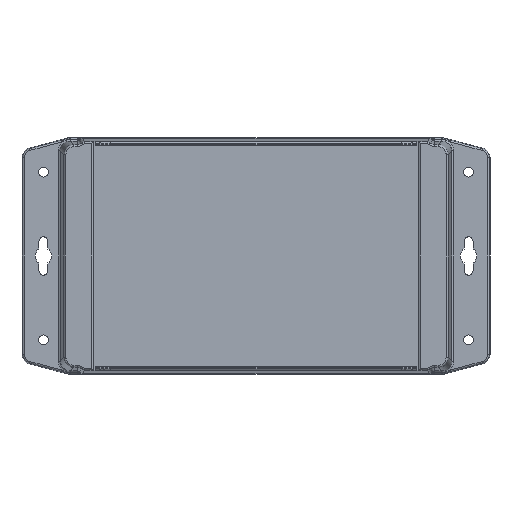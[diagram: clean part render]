
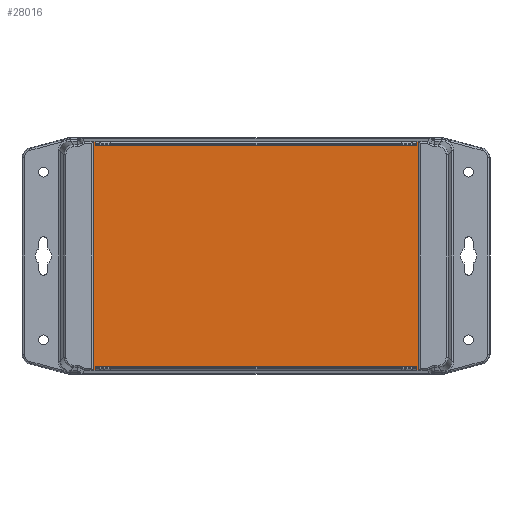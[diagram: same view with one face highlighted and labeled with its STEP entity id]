
A CAD part, front view. The second image highlights one B-rep face of the part: STEP entity #28016.
In plain terms, the highlighted planar face has unit normal (0, -1, 0).
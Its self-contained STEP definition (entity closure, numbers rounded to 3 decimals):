
#2426=FACE_OUTER_BOUND('',#4178,.T.);
#4178=EDGE_LOOP('',(#19983,#19984,#19985,#19986,#19987,#19988,#19989,#19990,
#19991,#19992,#19993,#19994));
#7143=LINE('',#41943,#9467);
#7153=LINE('',#42022,#9477);
#7177=LINE('',#42245,#9501);
#7180=LINE('',#42250,#9504);
#7192=LINE('',#42390,#9516);
#7195=LINE('',#42396,#9519);
#7199=LINE('',#42408,#9523);
#7211=LINE('',#42589,#9535);
#7214=LINE('',#42596,#9538);
#7218=LINE('',#42603,#9542);
#7220=LINE('',#42607,#9544);
#7274=LINE('',#43561,#9598);
#9467=VECTOR('',#32847,10.);
#9477=VECTOR('',#32885,10.);
#9501=VECTOR('',#32983,10.);
#9504=VECTOR('',#32986,10.);
#9516=VECTOR('',#33022,10.);
#9519=VECTOR('',#33025,10.);
#9523=VECTOR('',#33031,10.);
#9535=VECTOR('',#33105,10.);
#9538=VECTOR('',#33114,10.);
#9542=VECTOR('',#33122,10.);
#9544=VECTOR('',#33126,10.);
#9598=VECTOR('',#33458,10.);
#11827=VERTEX_POINT('',#41940);
#11828=VERTEX_POINT('',#41942);
#11842=VERTEX_POINT('',#42019);
#11843=VERTEX_POINT('',#42021);
#11880=VERTEX_POINT('',#42242);
#11881=VERTEX_POINT('',#42244);
#11883=VERTEX_POINT('',#42249);
#11893=VERTEX_POINT('',#42388);
#11895=VERTEX_POINT('',#42393);
#11896=VERTEX_POINT('',#42395);
#11922=VERTEX_POINT('',#42594);
#11924=VERTEX_POINT('',#42605);
#14658=EDGE_CURVE('',#11828,#11827,#7143,.T.);
#14678=EDGE_CURVE('',#11843,#11842,#7153,.T.);
#14732=EDGE_CURVE('',#11880,#11881,#7177,.F.);
#14735=EDGE_CURVE('',#11843,#11883,#7180,.F.);
#14756=EDGE_CURVE('',#11893,#11827,#7192,.F.);
#14759=EDGE_CURVE('',#11895,#11896,#7195,.F.);
#14764=EDGE_CURVE('',#11893,#11883,#7199,.T.);
#14802=EDGE_CURVE('',#11896,#11880,#7211,.T.);
#14805=EDGE_CURVE('',#11842,#11922,#7214,.T.);
#14809=EDGE_CURVE('',#11922,#11881,#7218,.T.);
#14811=EDGE_CURVE('',#11895,#11924,#7220,.T.);
#14985=EDGE_CURVE('',#11924,#11828,#7274,.T.);
#19983=ORIENTED_EDGE('',*,*,#14658,.T.);
#19984=ORIENTED_EDGE('',*,*,#14756,.F.);
#19985=ORIENTED_EDGE('',*,*,#14764,.T.);
#19986=ORIENTED_EDGE('',*,*,#14735,.F.);
#19987=ORIENTED_EDGE('',*,*,#14678,.T.);
#19988=ORIENTED_EDGE('',*,*,#14805,.T.);
#19989=ORIENTED_EDGE('',*,*,#14809,.T.);
#19990=ORIENTED_EDGE('',*,*,#14732,.F.);
#19991=ORIENTED_EDGE('',*,*,#14802,.F.);
#19992=ORIENTED_EDGE('',*,*,#14759,.F.);
#19993=ORIENTED_EDGE('',*,*,#14811,.T.);
#19994=ORIENTED_EDGE('',*,*,#14985,.T.);
#27106=PLANE('',#30001);
#28016=ADVANCED_FACE('',(#2426),#27106,.F.);
#30001=AXIS2_PLACEMENT_3D('',#43579,#33481,#33482);
#32847=DIRECTION('',(0.,0.,-1.));
#32885=DIRECTION('',(0.,0.,-1.));
#32983=DIRECTION('',(-1.,0.,0.));
#32986=DIRECTION('',(-1.,0.,0.));
#33022=DIRECTION('',(1.,0.,0.));
#33025=DIRECTION('',(1.,0.,0.));
#33031=DIRECTION('',(0.,0.,1.));
#33105=DIRECTION('',(0.,0.,1.));
#33114=DIRECTION('',(-1.,0.,0.));
#33122=DIRECTION('',(0.,0.,1.));
#33126=DIRECTION('',(0.,0.,1.));
#33458=DIRECTION('',(1.,0.,0.));
#33481=DIRECTION('center_axis',(0.,1.,0.));
#33482=DIRECTION('ref_axis',(-1.,0.,0.));
#41940=CARTESIAN_POINT('',(82.4,-45.2,-58.522));
#41942=CARTESIAN_POINT('',(82.4,-45.2,-56.9));
#41943=CARTESIAN_POINT('',(82.4,-45.2,-28.45));
#42019=CARTESIAN_POINT('',(82.4,-45.2,56.9));
#42021=CARTESIAN_POINT('',(82.4,-45.2,58.522));
#42022=CARTESIAN_POINT('',(82.4,-45.2,29.211));
#42242=CARTESIAN_POINT('',(-83.4,-45.2,58.522));
#42244=CARTESIAN_POINT('',(-82.4,-45.2,58.522));
#42245=CARTESIAN_POINT('',(-8.3,-45.2,58.522));
#42249=CARTESIAN_POINT('',(83.4,-45.2,58.522));
#42250=CARTESIAN_POINT('',(-8.3,-45.2,58.522));
#42388=CARTESIAN_POINT('',(83.4,-45.2,-58.522));
#42390=CARTESIAN_POINT('',(91.7,-45.2,-58.522));
#42393=CARTESIAN_POINT('',(-82.4,-45.2,-58.522));
#42395=CARTESIAN_POINT('',(-83.4,-45.2,-58.522));
#42396=CARTESIAN_POINT('',(91.7,-45.2,-58.522));
#42408=CARTESIAN_POINT('',(83.4,-45.2,0.));
#42589=CARTESIAN_POINT('',(-83.4,-45.2,0.));
#42594=CARTESIAN_POINT('',(-82.4,-45.2,56.9));
#42596=CARTESIAN_POINT('',(82.9,-45.2,56.9));
#42603=CARTESIAN_POINT('',(-82.4,-45.2,28.45));
#42605=CARTESIAN_POINT('',(-82.4,-45.2,-56.9));
#42607=CARTESIAN_POINT('',(-82.4,-45.2,-29.211));
#43561=CARTESIAN_POINT('',(0.5,-45.2,-56.9));
#43579=CARTESIAN_POINT('Origin',(83.4,-45.2,0.));
